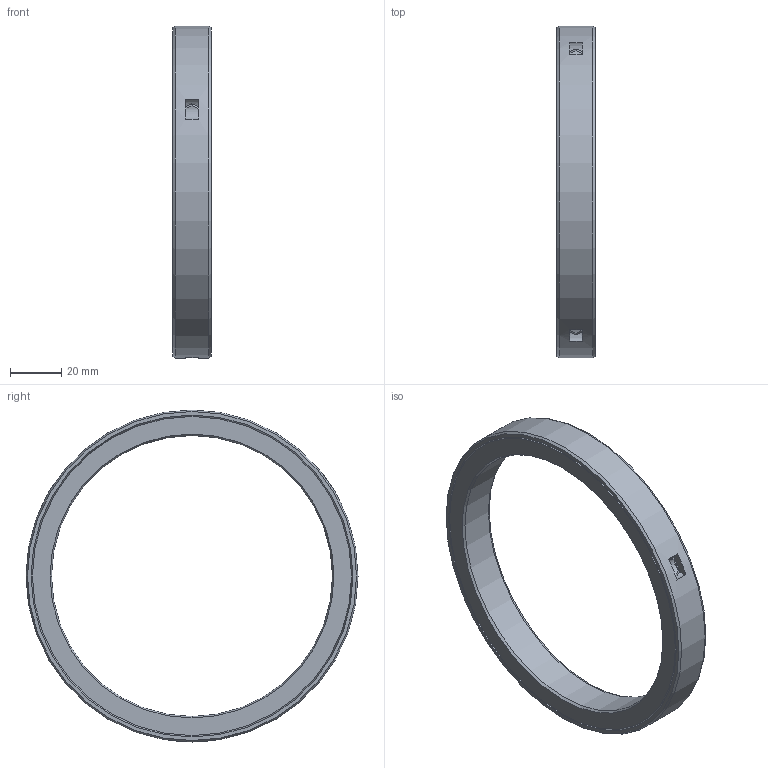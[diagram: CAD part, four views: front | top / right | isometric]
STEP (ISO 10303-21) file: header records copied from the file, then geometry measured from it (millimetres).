
FILE_DESCRIPTION(/* description */ (''),/* implementation_level */ '2;1');
FILE_NAME(/* name */ '301439 M 110x130x15.stp',/* time_stamp */ '2016-12-15T12:05:55+01:00',/* author */ (''),/* organization */ (''),/* preprocessor_version */ 'ST-DEVELOPER v15',/* originating_system */ 'SIEMENS PLM Software NX 8.5',/* authorisation */ '');
FILE_SCHEMA (('CONFIG_CONTROL_DESIGN'));
Length unit declared in the file: millimetre
Products named in the file (1): ATE0000124_01
Bounding box: 15 x 130 x 130 mm (x, y, z)
Volume: 52576.4 mm3; surface area: 30176 mm2
Topology: 2 solids, 2 shells, 39 faces, 111 edges, 72 vertices
Faces by surface type: plane 16, cone 12, cylinder 11
Full cylindrical faces by diameter (mm): 110 x1, 130 x1
Entity records: 1274 total; most frequent: CARTESIAN_POINT 264, DIRECTION 202, ORIENTED_EDGE 176, AXIS2_PLACEMENT_3D 98, EDGE_CURVE 88, VERTEX_POINT 64, EDGE_LOOP 60, CIRCLE 58
